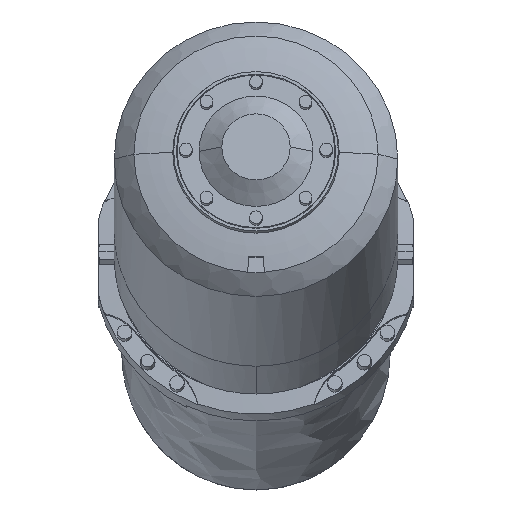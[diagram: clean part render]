
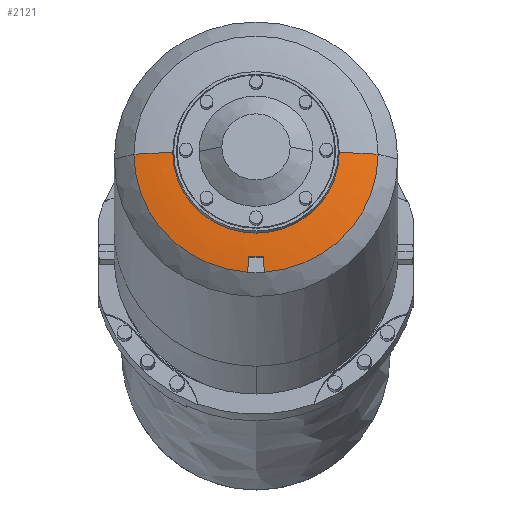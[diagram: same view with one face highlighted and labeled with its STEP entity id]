
A CAD part, left-side view. The second image highlights one B-rep face of the part: STEP entity #2121.
In plain terms, the highlighted toroidal (fillet/blend) face has major radius 57.677 mm and minor radius 419.082 mm.
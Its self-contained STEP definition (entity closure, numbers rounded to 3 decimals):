
#409 = DIRECTION ( 'NONE',  ( 0.968, 0., -0.252 ) ) ;
#622 = CARTESIAN_POINT ( 'NONE',  ( -767.707, -215.784, 772.476 ) ) ;
#682 = CARTESIAN_POINT ( 'NONE',  ( -766.812, -217.5, 792.739 ) ) ;
#726 = DIRECTION ( 'NONE',  ( 0.968, 0., -0.252 ) ) ;
#768 = CARTESIAN_POINT ( 'NONE',  ( -766.812, -235.5, 792.739 ) ) ;
#791 = CARTESIAN_POINT ( 'NONE',  ( -766.812, -235.5, 792.739 ) ) ;
#970 = B_SPLINE_CURVE_WITH_KNOTS ( 'NONE', 3,
 ( #622, #9015, #12291, #6876 ),
 .UNSPECIFIED., .F., .F.,
 ( 4, 4 ),
 ( 0., 0.02 ),
 .UNSPECIFIED. ) ;
#1126 = EDGE_CURVE ( 'NONE', #2558, #1757, #8703, .T. ) ;
#1502 = VERTEX_POINT ( 'NONE', #4758 ) ;
#1538 = EDGE_LOOP ( 'NONE', ( #13237, #2254, #8718, #9620, #9244, #3205, #9420, #10576 ) ) ;
#1743 = DIRECTION ( 'NONE',  ( 0., 1., 0. ) ) ;
#1757 = VERTEX_POINT ( 'NONE', #10310 ) ;
#1816 = CARTESIAN_POINT ( 'NONE',  ( -767.276, -236.077, 785.972 ) ) ;
#2121 = ADVANCED_FACE ( 'NONE', ( #4072 ), #10690, .T. ) ;
#2254 = ORIENTED_EDGE ( 'NONE', *, *, #2291, .T. ) ;
#2291 = EDGE_CURVE ( 'NONE', #4367, #2558, #5214, .T. ) ;
#2292 = CARTESIAN_POINT ( 'NONE',  ( -737.13, -226.5, 924.302 ) ) ;
#2321 = CARTESIAN_POINT ( 'NONE',  ( -737.13, -332.139, 924.302 ) ) ;
#2451 = CARTESIAN_POINT ( 'NONE',  ( -767.707, -215.784, 772.476 ) ) ;
#2452 = EDGE_CURVE ( 'NONE', #12134, #1757, #12668, .T. ) ;
#2558 = VERTEX_POINT ( 'NONE', #12328 ) ;
#2799 = VERTEX_POINT ( 'NONE', #9446 ) ;
#3205 = ORIENTED_EDGE ( 'NONE', *, *, #7698, .T. ) ;
#3892 = CARTESIAN_POINT ( 'NONE',  ( -766.812, -217.5, 792.739 ) ) ;
#3990 = CARTESIAN_POINT ( 'NONE',  ( -728.707, -226.5, 922.107 ) ) ;
#4072 = FACE_OUTER_BOUND ( 'NONE', #1538, .T. ) ;
#4367 = VERTEX_POINT ( 'NONE', #2321 ) ;
#4493 = VERTEX_POINT ( 'NONE', #682 ) ;
#4531 = EDGE_CURVE ( 'NONE', #4367, #1502, #11168, .T. ) ;
#4663 = DIRECTION ( 'NONE',  ( 0.968, 0., -0.252 ) ) ;
#4758 = CARTESIAN_POINT ( 'NONE',  ( -728.707, -381.5, 922.107 ) ) ;
#4841 = CARTESIAN_POINT ( 'NONE',  ( -766.884, -223.5, 792.762 ) ) ;
#5170 = VERTEX_POINT ( 'NONE', #9659 ) ;
#5214 = CIRCLE ( 'NONE', #11773, 105.639 ) ;
#5335 = DIRECTION ( 'NONE',  ( -0.252, 0., -0.968 ) ) ;
#5414 = AXIS2_PLACEMENT_3D ( 'NONE', #11767, #5335, #8476 ) ;
#5572 = B_SPLINE_CURVE_WITH_KNOTS ( 'NONE', 3,
 ( #3892, #4841, #7142, #768 ),
 .UNSPECIFIED., .F., .F.,
 ( 4, 4 ),
 ( 0.003, 0.021 ),
 .UNSPECIFIED. ) ;
#5962 = DIRECTION ( 'NONE',  ( 0.968, 0., -0.252 ) ) ;
#6015 = DIRECTION ( 'NONE',  ( 0., 1., 0. ) ) ;
#6265 = EDGE_CURVE ( 'NONE', #5170, #2799, #6760, .T. ) ;
#6512 = AXIS2_PLACEMENT_3D ( 'NONE', #13365, #5962, #8278 ) ;
#6760 = B_SPLINE_CURVE_WITH_KNOTS ( 'NONE', 3,
 ( #7234, #13483, #1816, #791 ),
 .UNSPECIFIED., .F., .F.,
 ( 4, 4 ),
 ( 0.104, 0.124 ),
 .UNSPECIFIED. ) ;
#6876 = CARTESIAN_POINT ( 'NONE',  ( -766.812, -217.5, 792.739 ) ) ;
#7142 = CARTESIAN_POINT ( 'NONE',  ( -766.884, -229.5, 792.762 ) ) ;
#7234 = CARTESIAN_POINT ( 'NONE',  ( -767.707, -237.216, 772.476 ) ) ;
#7698 = EDGE_CURVE ( 'NONE', #4493, #2799, #5572, .T. ) ;
#8060 = AXIS2_PLACEMENT_3D ( 'NONE', #8905, #4663, #1743 ) ;
#8278 = DIRECTION ( 'NONE',  ( 0., 1., 0. ) ) ;
#8476 = DIRECTION ( 'NONE',  ( -0.968, 0., 0.252 ) ) ;
#8480 = DIRECTION ( 'NONE',  ( 0., 1., 0. ) ) ;
#8513 = DIRECTION ( 'NONE',  ( 0.252, 0., 0.968 ) ) ;
#8530 = AXIS2_PLACEMENT_3D ( 'NONE', #9763, #8513, #409 ) ;
#8625 = DIRECTION ( 'NONE',  ( 0.968, 0., -0.252 ) ) ;
#8703 = CIRCLE ( 'NONE', #5414, 419.082 ) ;
#8718 = ORIENTED_EDGE ( 'NONE', *, *, #1126, .T. ) ;
#8905 = CARTESIAN_POINT ( 'NONE',  ( -728.707, -226.5, 922.107 ) ) ;
#9015 = CARTESIAN_POINT ( 'NONE',  ( -767.574, -216.352, 779.238 ) ) ;
#9244 = ORIENTED_EDGE ( 'NONE', *, *, #12240, .T. ) ;
#9420 = ORIENTED_EDGE ( 'NONE', *, *, #6265, .F. ) ;
#9446 = CARTESIAN_POINT ( 'NONE',  ( -766.812, -235.5, 792.739 ) ) ;
#9620 = ORIENTED_EDGE ( 'NONE', *, *, #2452, .F. ) ;
#9659 = CARTESIAN_POINT ( 'NONE',  ( -767.707, -237.216, 772.476 ) ) ;
#9699 = AXIS2_PLACEMENT_3D ( 'NONE', #3990, #726, #6015 ) ;
#9763 = CARTESIAN_POINT ( 'NONE',  ( -334.261, -284.177, 819.297 ) ) ;
#10310 = CARTESIAN_POINT ( 'NONE',  ( -728.707, -71.5, 922.107 ) ) ;
#10576 = ORIENTED_EDGE ( 'NONE', *, *, #11228, .F. ) ;
#10690 = TOROIDAL_SURFACE ( 'NONE', #6512, 57.677, 419.082 ) ;
#11168 = CIRCLE ( 'NONE', #8530, 419.082 ) ;
#11228 = EDGE_CURVE ( 'NONE', #1502, #5170, #11864, .T. ) ;
#11767 = CARTESIAN_POINT ( 'NONE',  ( -334.261, -168.823, 819.297 ) ) ;
#11773 = AXIS2_PLACEMENT_3D ( 'NONE', #2292, #8625, #8480 ) ;
#11864 = CIRCLE ( 'NONE', #9699, 155. ) ;
#12134 = VERTEX_POINT ( 'NONE', #2451 ) ;
#12240 = EDGE_CURVE ( 'NONE', #12134, #4493, #970, .T. ) ;
#12291 = CARTESIAN_POINT ( 'NONE',  ( -767.275, -216.924, 785.992 ) ) ;
#12328 = CARTESIAN_POINT ( 'NONE',  ( -737.13, -120.861, 924.302 ) ) ;
#12668 = CIRCLE ( 'NONE', #8060, 155. ) ;
#13237 = ORIENTED_EDGE ( 'NONE', *, *, #4531, .F. ) ;
#13365 = CARTESIAN_POINT ( 'NONE',  ( -334.261, -226.5, 819.297 ) ) ;
#13483 = CARTESIAN_POINT ( 'NONE',  ( -767.574, -236.649, 779.218 ) ) ;
